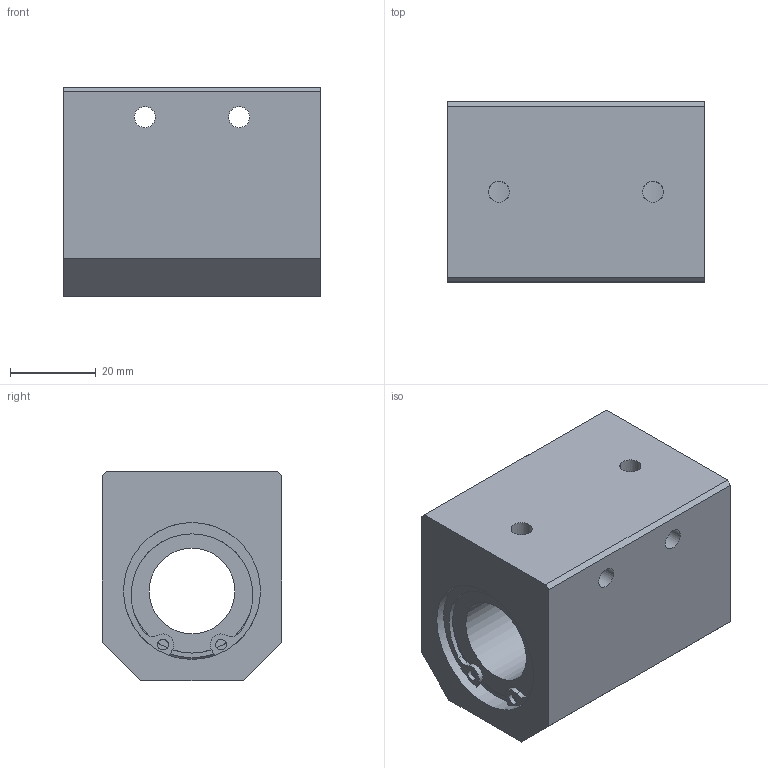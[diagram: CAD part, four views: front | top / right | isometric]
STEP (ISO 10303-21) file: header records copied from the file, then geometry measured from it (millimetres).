
FILE_DESCRIPTION((''),'2;1');
FILE_NAME('D:\製品 (図面)\カタログ用3D\メンテナンスフリー関連\STEP形式\CH-MF\CH20MF.stp','2010-06-01T15:29:16',('Tsuchiya'),(''),'Autodesk Inventor 10','Autodesk Inventor 10','');
FILE_SCHEMA(('AUTOMOTIVE_DESIGN { 1 0 10303 214 1 1 1 1 }'));
Length unit declared in the file: millimetre
Products named in the file (1): CH20MF
Bounding box: 60 x 42 x 49 mm (x, y, z)
Volume: 93451.8 mm3; surface area: 21056.8 mm2
Topology: 1 solids, 3 shells, 75 faces, 191 edges, 120 vertices
Faces by surface type: plane 33, bspline 22, cylinder 18, torus 2
Full cylindrical faces by diameter (mm): 2.5 x2, 20 x1, 29 x2, 30.3 x2, 32 x4
Entity records: 2384 total; most frequent: CARTESIAN_POINT 712, DIRECTION 352, ORIENTED_EDGE 304, EDGE_CURVE 152, AXIS2_PLACEMENT_3D 148, EDGE_LOOP 118, VERTEX_POINT 104, CIRCLE 94
